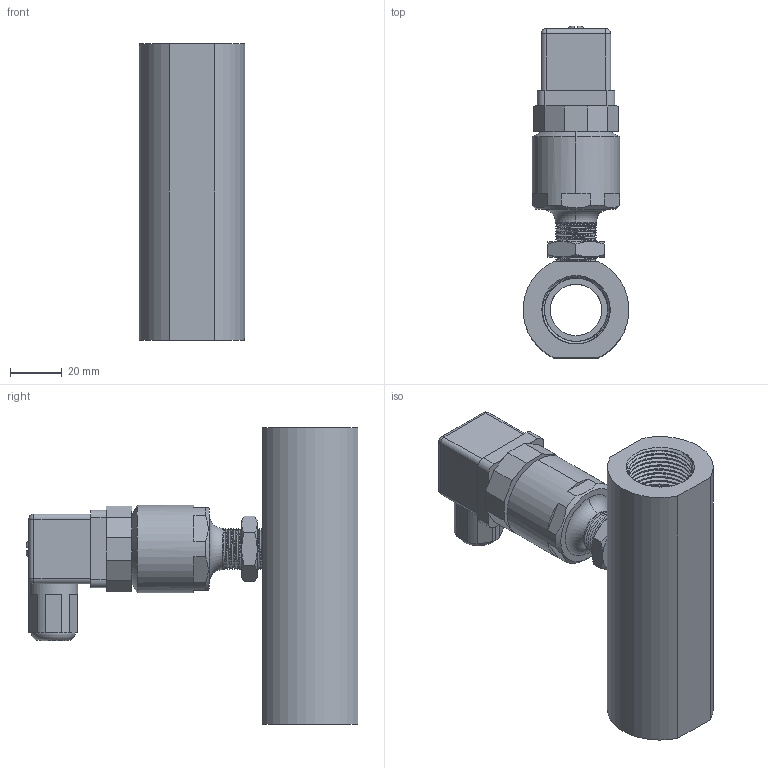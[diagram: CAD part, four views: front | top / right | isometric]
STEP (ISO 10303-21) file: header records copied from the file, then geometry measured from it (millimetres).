
FILE_DESCRIPTION( (''), '2;1');
FILE_NAME( 'QTKB_DN20_female-thread.step', '2024-01-09T10:14:27+08:00', (''), (''), '', '', '');
FILE_SCHEMA (('AUTOMOTIVE_DESIGN { 1 0 10303 214 3 1 1 1 }'));
Length unit declared in the file: millimetre
Products named in the file (1): QTKB DN20_female-thread
Bounding box: 40.85 x 128.5 x 115 mm (x, y, z)
Volume: 167520.6 mm3; surface area: 47200.2 mm2
Topology: 5 solids, 6 shells, 369 faces, 1001 edges, 662 vertices
Faces by surface type: plane 250, cylinder 61, cone 28, bspline 22, torus 4, sphere 4
Full cylindrical faces by diameter (mm): 17 x1, 20 x1, 27 x2
Entity records: 22122 total; most frequent: CARTESIAN_POINT 13002, ORIENTED_EDGE 1966, DIRECTION 1720, EDGE_CURVE 983, VERTEX_POINT 655, LINE 644, VECTOR 644, AXIS2_PLACEMENT_3D 538
